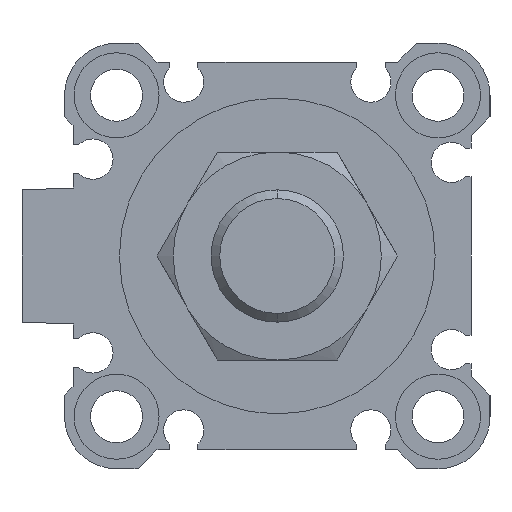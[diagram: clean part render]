
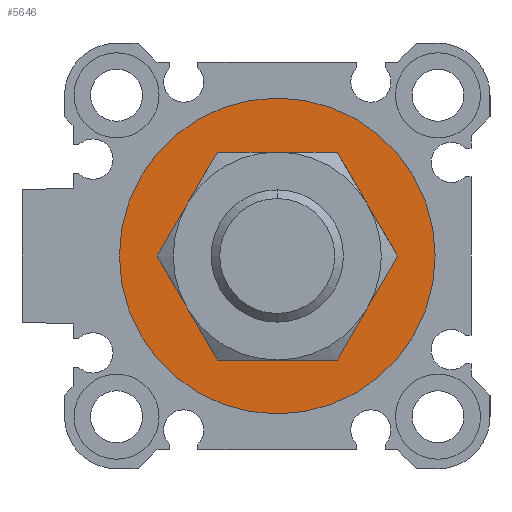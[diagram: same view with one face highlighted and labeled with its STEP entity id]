
A CAD part, left-side view. The second image highlights one B-rep face of the part: STEP entity #5646.
In plain terms, the highlighted planar face has unit normal (-1, 0, 0).
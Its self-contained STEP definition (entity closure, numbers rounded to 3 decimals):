
#363 = CIRCLE ( 'NONE', #2186, 16.7 ) ;
#416 = AXIS2_PLACEMENT_3D ( 'NONE', #3729, #6898, #1637 ) ;
#444 = VERTEX_POINT ( 'NONE', #6728 ) ;
#598 = DIRECTION ( 'NONE',  ( 0., 0., -1. ) ) ;
#1109 = DIRECTION ( 'NONE',  ( 0., 0., -1. ) ) ;
#1160 = AXIS2_PLACEMENT_3D ( 'NONE', #4855, #2126, #598 ) ;
#1183 = FACE_OUTER_BOUND ( 'NONE', #4758, .T. ) ;
#1248 = DIRECTION ( 'NONE',  ( 1., 0., 0. ) ) ;
#1637 = DIRECTION ( 'NONE',  ( 0., 0., -1. ) ) ;
#1665 = CIRCLE ( 'NONE', #416, 10.5 ) ;
#1913 = EDGE_CURVE ( 'NONE', #4387, #444, #363, .T. ) ;
#2126 = DIRECTION ( 'NONE',  ( 1., 0., 0. ) ) ;
#2186 = AXIS2_PLACEMENT_3D ( 'NONE', #6684, #6014, #3315 ) ;
#2199 = EDGE_LOOP ( 'NONE', ( #6379, #4176 ) ) ;
#2278 = CARTESIAN_POINT ( 'NONE',  ( 2.1, 0., 0. ) ) ;
#2621 = VERTEX_POINT ( 'NONE', #5175 ) ;
#2671 = ORIENTED_EDGE ( 'NONE', *, *, #3347, .F. ) ;
#2758 = ORIENTED_EDGE ( 'NONE', *, *, #1913, .F. ) ;
#2787 = CARTESIAN_POINT ( 'NONE',  ( 2.1, 0., 16.7 ) ) ;
#2856 = VERTEX_POINT ( 'NONE', #4393 ) ;
#3221 = EDGE_CURVE ( 'NONE', #2621, #2856, #1665, .T. ) ;
#3315 = DIRECTION ( 'NONE',  ( 0., 0., -1. ) ) ;
#3347 = EDGE_CURVE ( 'NONE', #444, #4387, #5289, .T. ) ;
#3352 = CARTESIAN_POINT ( 'NONE',  ( 2.1, 0., 0. ) ) ;
#3385 = DIRECTION ( 'NONE',  ( 1., 0., 0. ) ) ;
#3729 = CARTESIAN_POINT ( 'NONE',  ( 2.1, 0., 0. ) ) ;
#4176 = ORIENTED_EDGE ( 'NONE', *, *, #3221, .T. ) ;
#4375 = FACE_BOUND ( 'NONE', #2199, .T. ) ;
#4387 = VERTEX_POINT ( 'NONE', #2787 ) ;
#4393 = CARTESIAN_POINT ( 'NONE',  ( 2.1, 0., 10.5 ) ) ;
#4674 = AXIS2_PLACEMENT_3D ( 'NONE', #3352, #3385, #5543 ) ;
#4758 = EDGE_LOOP ( 'NONE', ( #2758, #2671 ) ) ;
#4855 = CARTESIAN_POINT ( 'NONE',  ( 2.1, 0., 0. ) ) ;
#5014 = PLANE ( 'NONE',  #4674 ) ;
#5175 = CARTESIAN_POINT ( 'NONE',  ( 2.1, 0., -10.5 ) ) ;
#5289 = CIRCLE ( 'NONE', #6316, 16.7 ) ;
#5543 = DIRECTION ( 'NONE',  ( 0., 1., 0. ) ) ;
#5646 = ADVANCED_FACE ( 'NONE', ( #1183, #4375 ), #5014, .F. ) ;
#5923 = CIRCLE ( 'NONE', #1160, 10.5 ) ;
#6014 = DIRECTION ( 'NONE',  ( 1., 0., 0. ) ) ;
#6316 = AXIS2_PLACEMENT_3D ( 'NONE', #2278, #1248, #1109 ) ;
#6379 = ORIENTED_EDGE ( 'NONE', *, *, #6755, .T. ) ;
#6684 = CARTESIAN_POINT ( 'NONE',  ( 2.1, 0., 0. ) ) ;
#6728 = CARTESIAN_POINT ( 'NONE',  ( 2.1, 0., -16.7 ) ) ;
#6755 = EDGE_CURVE ( 'NONE', #2856, #2621, #5923, .T. ) ;
#6898 = DIRECTION ( 'NONE',  ( 1., 0., 0. ) ) ;
